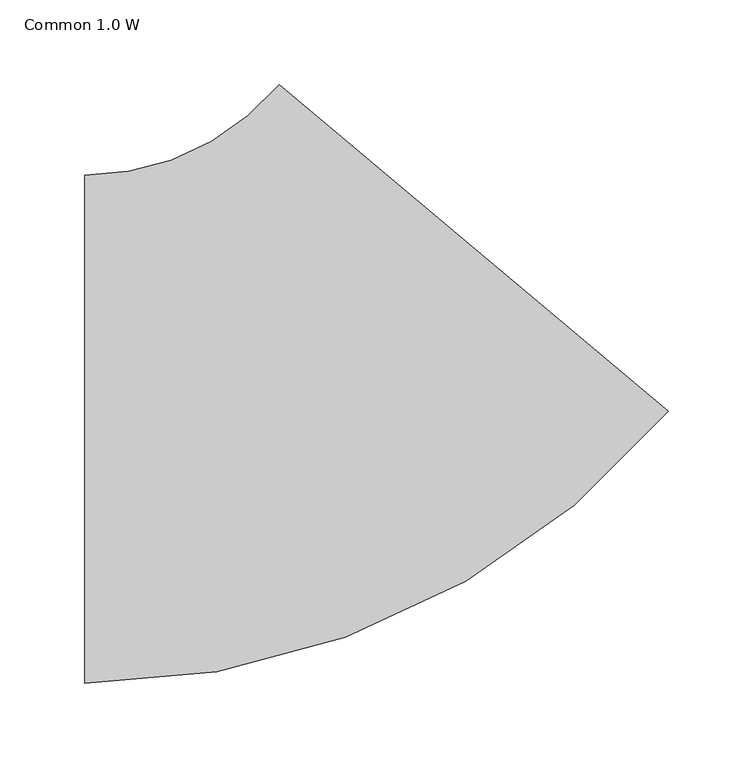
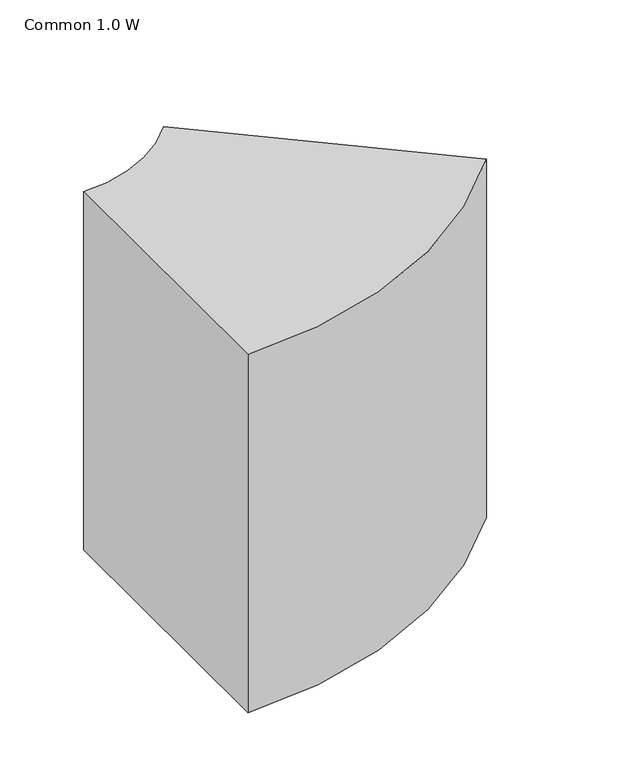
"""IFC4 building model written with IfcOpenShell, lengths in millimetres: duct fitting geometry, 011_角型エルボ - 半径 : Common 1.0 W."""

from ifc_helpers import new_model, si_unit, point, frame, frame_2d, origin, place, context, project, spatial, polyline, circle_curve, trimmed, segment, composite_curve, outline, extrude, source, transform, mapped, element, save


def common_1_0_w_81b0d351(model_context):
    return source(origin(), model_context, "Body", "SweptSolid", [
        extrude(outline(composite_curve([segment(trimmed(circle_curve(frame_2d((-139.8922974, 300.0)), 450.0), [point((204.827702, 10.7455756))], [point((-139.8922974, -150.0))], False, "CARTESIAN"), True, "CONTINUOUS"), segment(polyline([(-139.8922974, -150.0), (-139.8922974, 150.0)]), True, "CONTINUOUS"), segment(trimmed(circle_curve(frame_2d((-139.8922974, 300.0)), 150.0), [point((-139.8922974, 150.0))], [point((-24.985631, 203.5818585))], True, "CARTESIAN"), True, "CONTINUOUS"), segment(polyline([(-24.985631, 203.5818585), (204.827702, 10.7455756)]), True, "CONTINUOUS")], self_intersect=False)), frame((0.0, 0.0, -200.0), z_axis=(0.0, 0.0, 1.0), x_axis=(1.0, 0.0, 0.0)), (0.0, 0.0, 1.0), 400.0),
    ])


if __name__ == "__main__":
    model = new_model("IFC4")
    model_context = context("Model", 3, world=origin())
    ifc_project = project(units=[si_unit("LENGTHUNIT", "METRE", prefix="MILLI")], contexts=[model_context])
    site = spatial("IfcSite", under=ifc_project)
    building = spatial("IfcBuilding", under=site)
    placement = place(None, origin())
    common_1_0_w_shape = common_1_0_w_81b0d351(model_context)
    element("IfcDuctFitting", 1, ObjectType="011_角型エルボ - 半径 : Common 1.0 W", at=placement, inside=building, context=model_context, shape_type="MappedRepresentation", body=[
        mapped(common_1_0_w_shape, transform((0.0, 0.0, 0.0), x_axis=(1.0, 0.0, 0.0), y_axis=(0.0, 1.0, 0.0), z_axis=(0.0, 0.0, 1.0))),
    ])
    save(model, "model.ifc")
